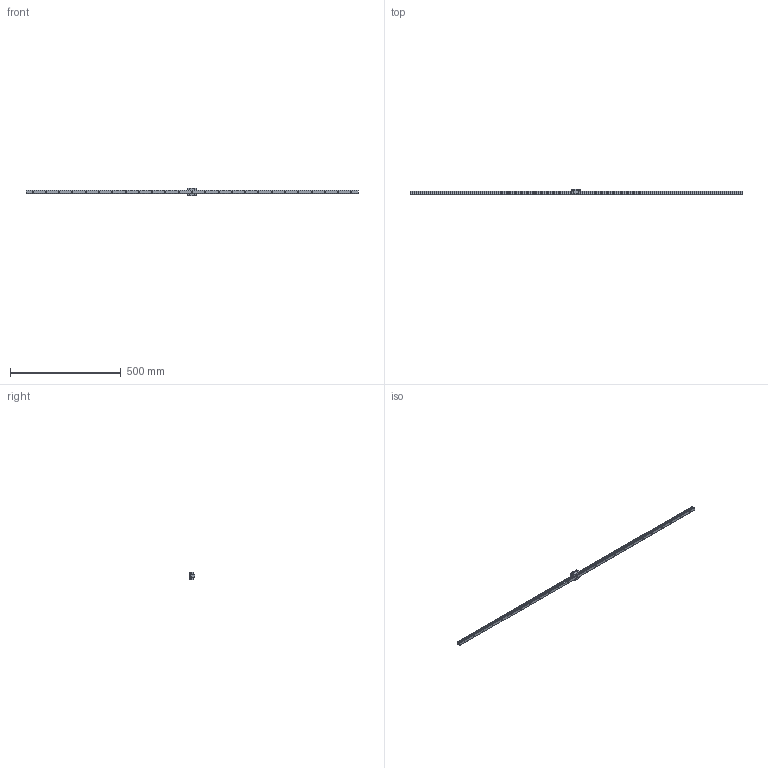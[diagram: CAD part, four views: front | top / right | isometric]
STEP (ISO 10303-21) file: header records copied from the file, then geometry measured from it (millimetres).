
FILE_DESCRIPTION( ( 'STEP AP214' ), '1' );
FILE_NAME( 'p:/temp/worker_91/temp/exporttempdir_1000_215_1QaUT/format_1/1xBM S 15-N-G3-KC-R1-1500-30-30-CN 1xBM W 15-K-G3-V0-R1-CN-S99-LN-( -1).stp', '2020-06-09T09:26:40', ( 'License CC BY-ND 4.0' ), ( 'CADENAS' ), ' ', 'PARTsolutions', ' ' );
FILE_SCHEMA( ( 'AUTOMOTIVE_DESIGN { 1 0 10303 214 1 1 1 1 }' ) );
Length unit declared in the file: millimetre
Products named in the file (4): 1xBM S 15-N-G3-KC-R1-1500-30-30-CN 1xBM W 15-K-G3-V0-R1-CN-S99-LN-( -1); _1xBM S 15-N-G3-KC-R1-1500-30-30-CN-(1); _1 BM W 15-K-G3-V0-R1-CN-S10-LN; _STB 15-B(0)
Assembly tree (4 placements, depth 2):
  1xBM S 15-N-G3-KC-R1-1500-30-30-CN 1xBM W 15-K-G3-V0-R1-CN-S99-LN-( -1)
    _1xBM S 15-N-G3-KC-R1-1500-30-30-CN-(1)
    _1 BM W 15-K-G3-V0-R1-CN-S10-LN
    _STB 15-B(0)  x2
Bounding box: 1500 x 24 x 34 mm (x, y, z)
Volume: 289256 mm3; surface area: 108479.2 mm2
Topology: 4 solids, 4 shells, 409 faces, 1048 edges, 690 vertices
Faces by surface type: plane 223, cylinder 166, cone 16, torus 4
Full cylindrical faces by diameter (mm): 2.013 x4, 2.459 x4, 2.46 x2, 3.1 x4, 3.242 x2, 4.5 x29, 5 x4, 8 x27
Entity records: 11264 total; most frequent: CARTESIAN_POINT 1619, DIRECTION 1532, ORIENTED_EDGE 1332, EDGE_CURVE 666, AXIS2_PLACEMENT_3D 571, VERTEX_POINT 490, EDGE_LOOP 468, LINE 390
